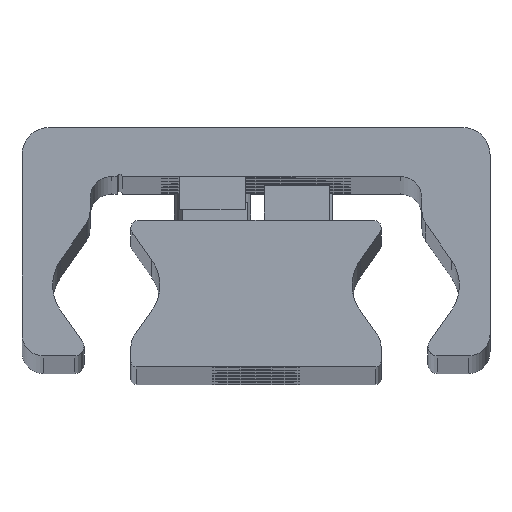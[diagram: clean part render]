
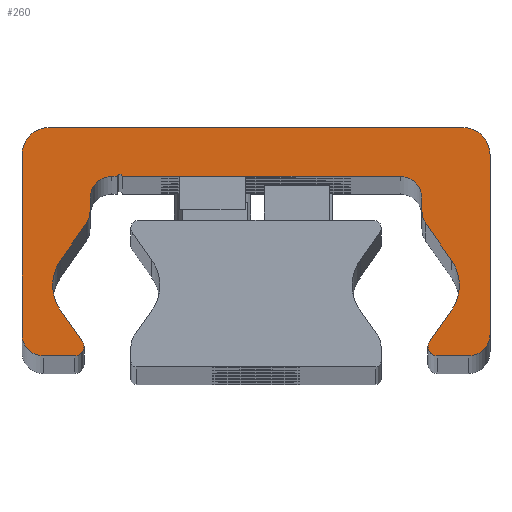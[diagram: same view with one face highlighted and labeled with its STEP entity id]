
A CAD part, top view. The second image highlights one B-rep face of the part: STEP entity #260.
In plain terms, the highlighted planar face has unit normal (0, 0, 1).
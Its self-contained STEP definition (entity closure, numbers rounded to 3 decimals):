
#260=ADVANCED_FACE('',(#706),#707,.T.);
#706=FACE_OUTER_BOUND('',#1153,.T.);
#707=PLANE('',#1154);
#1153=EDGE_LOOP('',(#2666,#2667,#2668,#2669,#2670,#2671,#2672,#2673,#2674,#2675,#2676,#2677,#2678,#2679,#2680,#2681,#2682,#2683,#2684,#2685,#2686,#2687,#2688,#2689,#2690,#2691,#2692,#2693,#2694,#2695));
#1154=AXIS2_PLACEMENT_3D('',#2696,#2697,#2698);
#2666=ORIENTED_EDGE('',*,*,#2999,.F.);
#2667=ORIENTED_EDGE('',*,*,#3222,.F.);
#2668=ORIENTED_EDGE('',*,*,#2985,.F.);
#2669=ORIENTED_EDGE('',*,*,#3221,.F.);
#2670=ORIENTED_EDGE('',*,*,#3217,.F.);
#2671=ORIENTED_EDGE('',*,*,#3214,.F.);
#2672=ORIENTED_EDGE('',*,*,#3211,.F.);
#2673=ORIENTED_EDGE('',*,*,#3208,.F.);
#2674=ORIENTED_EDGE('',*,*,#3205,.F.);
#2675=ORIENTED_EDGE('',*,*,#3202,.F.);
#2676=ORIENTED_EDGE('',*,*,#3199,.F.);
#2677=ORIENTED_EDGE('',*,*,#3196,.F.);
#2678=ORIENTED_EDGE('',*,*,#3193,.F.);
#2679=ORIENTED_EDGE('',*,*,#3190,.F.);
#2680=ORIENTED_EDGE('',*,*,#2991,.F.);
#2681=ORIENTED_EDGE('',*,*,#3188,.F.);
#2682=ORIENTED_EDGE('',*,*,#2993,.F.);
#2683=ORIENTED_EDGE('',*,*,#3187,.F.);
#2684=ORIENTED_EDGE('',*,*,#3183,.F.);
#2685=ORIENTED_EDGE('',*,*,#3180,.F.);
#2686=ORIENTED_EDGE('',*,*,#3177,.F.);
#2687=ORIENTED_EDGE('',*,*,#3174,.F.);
#2688=ORIENTED_EDGE('',*,*,#3171,.F.);
#2689=ORIENTED_EDGE('',*,*,#3168,.F.);
#2690=ORIENTED_EDGE('',*,*,#3165,.F.);
#2691=ORIENTED_EDGE('',*,*,#3162,.F.);
#2692=ORIENTED_EDGE('',*,*,#3159,.F.);
#2693=ORIENTED_EDGE('',*,*,#3156,.F.);
#2694=ORIENTED_EDGE('',*,*,#3153,.F.);
#2695=ORIENTED_EDGE('',*,*,#3150,.F.);
#2696=CARTESIAN_POINT('',(-0.023,14.187,930.0));
#2697=DIRECTION('',(0.0,0.0,1.0));
#2698=DIRECTION('',(1.0,0.0,0.0));
#2985=EDGE_CURVE('',#3628,#3631,#3632,.T.);
#2991=EDGE_CURVE('',#3641,#3637,#3643,.T.);
#2993=EDGE_CURVE('',#3644,#3647,#3648,.T.);
#2999=EDGE_CURVE('',#3657,#3653,#3659,.T.);
#3150=EDGE_CURVE('',#3653,#3902,#3903,.T.);
#3153=EDGE_CURVE('',#3902,#3907,#3908,.T.);
#3156=EDGE_CURVE('',#3907,#3912,#3913,.T.);
#3159=EDGE_CURVE('',#3912,#3917,#3918,.T.);
#3162=EDGE_CURVE('',#3917,#3922,#3923,.T.);
#3165=EDGE_CURVE('',#3922,#3927,#3928,.T.);
#3168=EDGE_CURVE('',#3927,#3932,#3933,.T.);
#3171=EDGE_CURVE('',#3932,#3937,#3938,.T.);
#3174=EDGE_CURVE('',#3937,#3942,#3943,.T.);
#3177=EDGE_CURVE('',#3942,#3947,#3948,.T.);
#3180=EDGE_CURVE('',#3947,#3952,#3953,.T.);
#3183=EDGE_CURVE('',#3952,#3957,#3958,.T.);
#3187=EDGE_CURVE('',#3957,#3644,#3963,.T.);
#3188=EDGE_CURVE('',#3647,#3641,#3964,.T.);
#3190=EDGE_CURVE('',#3637,#3966,#3967,.T.);
#3193=EDGE_CURVE('',#3966,#3971,#3972,.T.);
#3196=EDGE_CURVE('',#3971,#3976,#3977,.T.);
#3199=EDGE_CURVE('',#3976,#3981,#3982,.T.);
#3202=EDGE_CURVE('',#3981,#3986,#3987,.T.);
#3205=EDGE_CURVE('',#3986,#3991,#3992,.T.);
#3208=EDGE_CURVE('',#3991,#3996,#3997,.T.);
#3211=EDGE_CURVE('',#3996,#4001,#4002,.T.);
#3214=EDGE_CURVE('',#4001,#4006,#4007,.T.);
#3217=EDGE_CURVE('',#4006,#4011,#4012,.T.);
#3221=EDGE_CURVE('',#4011,#3628,#4017,.T.);
#3222=EDGE_CURVE('',#3631,#3657,#4018,.T.);
#3628=VERTEX_POINT('',#4556);
#3631=VERTEX_POINT('',#4560);
#3632=CIRCLE('',#4561,0.85);
#3637=VERTEX_POINT('',#4567);
#3641=VERTEX_POINT('',#4572);
#3643=CIRCLE('',#4575,0.85);
#3644=VERTEX_POINT('',#4576);
#3647=VERTEX_POINT('',#4580);
#3648=CIRCLE('',#4581,4.);
#3653=VERTEX_POINT('',#4587);
#3657=VERTEX_POINT('',#4592);
#3659=CIRCLE('',#4595,4.);
#3902=VERTEX_POINT('',#4912);
#3903=CIRCLE('',#4913,4.);
#3907=VERTEX_POINT('',#4918);
#3908=LINE('',#4919,#4920);
#3912=VERTEX_POINT('',#4926);
#3913=CIRCLE('',#4927,2.);
#3917=VERTEX_POINT('',#4932);
#3918=LINE('',#4933,#4934);
#3922=VERTEX_POINT('',#4940);
#3923=CIRCLE('',#4941,2.0);
#3927=VERTEX_POINT('',#4946);
#3928=LINE('',#4947,#4948);
#3932=VERTEX_POINT('',#4954);
#3933=CIRCLE('',#4955,0.25);
#3937=VERTEX_POINT('',#4960);
#3938=LINE('',#4961,#4962);
#3942=VERTEX_POINT('',#4968);
#3943=CIRCLE('',#4969,2.0);
#3947=VERTEX_POINT('',#4974);
#3948=LINE('',#4975,#4976);
#3952=VERTEX_POINT('',#4982);
#3953=CIRCLE('',#4983,2.0);
#3957=VERTEX_POINT('',#4988);
#3958=LINE('',#4989,#4990);
#3963=CIRCLE('',#4997,4.);
#3964=LINE('',#4998,#4999);
#3966=VERTEX_POINT('',#5002);
#3967=CIRCLE('',#5003,0.85);
#3971=VERTEX_POINT('',#5008);
#3972=LINE('',#5009,#5010);
#3976=VERTEX_POINT('',#5016);
#3977=CIRCLE('',#5017,2.);
#3981=VERTEX_POINT('',#5022);
#3982=LINE('',#5023,#5024);
#3986=VERTEX_POINT('',#5030);
#3987=CIRCLE('',#5031,2.5);
#3991=VERTEX_POINT('',#5036);
#3992=LINE('',#5037,#5038);
#3996=VERTEX_POINT('',#5044);
#3997=CIRCLE('',#5045,2.5);
#4001=VERTEX_POINT('',#5050);
#4002=LINE('',#5051,#5052);
#4006=VERTEX_POINT('',#5058);
#4007=CIRCLE('',#5059,2.);
#4011=VERTEX_POINT('',#5064);
#4012=LINE('',#5065,#5066);
#4017=CIRCLE('',#5073,0.85);
#4018=LINE('',#5074,#5075);
#4556=CARTESIAN_POINT('',(15.8,1.859,930.0));
#4560=CARTESIAN_POINT('',(15.922,2.298,930.0));
#4561=AXIS2_PLACEMENT_3D('',#5571,#5572,#5573);
#4567=CARTESIAN_POINT('',(-15.8,1.859,930.0));
#4572=CARTESIAN_POINT('',(-15.922,2.298,930.0));
#4575=AXIS2_PLACEMENT_3D('',#5583,#5584,#5585);
#4576=CARTESIAN_POINT('',(-18.688,7.509,930.0));
#4580=CARTESIAN_POINT('',(-17.964,5.214,930.0));
#4581=AXIS2_PLACEMENT_3D('',#5587,#5588,#5589);
#4587=CARTESIAN_POINT('',(18.688,7.509,930.0));
#4592=CARTESIAN_POINT('',(17.964,5.214,930.0));
#4595=AXIS2_PLACEMENT_3D('',#5599,#5600,#5601);
#4912=CARTESIAN_POINT('',(17.964,9.803,930.0));
#4913=AXIS2_PLACEMENT_3D('',#5904,#5905,#5906);
#4918=CARTESIAN_POINT('',(15.612,13.163,930.0));
#4919=CARTESIAN_POINT('',(15.612,13.163,930.0));
#4920=VECTOR('',#5911,1.0);
#4926=CARTESIAN_POINT('',(15.25,14.31,930.0));
#4927=AXIS2_PLACEMENT_3D('',#5914,#5915,#5916);
#4932=CARTESIAN_POINT('',(15.25,15.509,930.0));
#4933=CARTESIAN_POINT('',(15.25,15.509,930.0));
#4934=VECTOR('',#5921,1.0);
#4940=CARTESIAN_POINT('',(13.25,17.509,930.0));
#4941=AXIS2_PLACEMENT_3D('',#5924,#5925,#5926);
#4946=CARTESIAN_POINT('',(-12.25,17.509,930.0));
#4947=CARTESIAN_POINT('',(-12.25,17.509,930.0));
#4948=VECTOR('',#5931,1.0);
#4954=CARTESIAN_POINT('',(-12.75,17.509,930.0));
#4955=AXIS2_PLACEMENT_3D('',#5934,#5935,#5936);
#4960=CARTESIAN_POINT('',(-13.25,17.509,930.0));
#4961=CARTESIAN_POINT('',(-13.25,17.509,930.0));
#4962=VECTOR('',#5941,1.0);
#4968=CARTESIAN_POINT('',(-15.25,15.509,930.0));
#4969=AXIS2_PLACEMENT_3D('',#5944,#5945,#5946);
#4974=CARTESIAN_POINT('',(-15.25,14.31,930.0));
#4975=CARTESIAN_POINT('',(-15.25,14.31,930.0));
#4976=VECTOR('',#5951,1.0);
#4982=CARTESIAN_POINT('',(-15.612,13.163,930.0));
#4983=AXIS2_PLACEMENT_3D('',#5954,#5955,#5956);
#4988=CARTESIAN_POINT('',(-17.964,9.803,930.0));
#4989=CARTESIAN_POINT('',(-17.964,9.803,930.0));
#4990=VECTOR('',#5961,1.0);
#4997=AXIS2_PLACEMENT_3D('',#5967,#5968,#5969);
#4998=CARTESIAN_POINT('',(-15.922,2.298,930.0));
#4999=VECTOR('',#5970,1.0);
#5002=CARTESIAN_POINT('',(-16.65,1.009,930.0));
#5003=AXIS2_PLACEMENT_3D('',#5972,#5973,#5974);
#5008=CARTESIAN_POINT('',(-19.5,1.009,930.0));
#5009=CARTESIAN_POINT('',(-19.5,1.009,930.0));
#5010=VECTOR('',#5979,1.0);
#5016=CARTESIAN_POINT('',(-21.5,3.009,930.0));
#5017=AXIS2_PLACEMENT_3D('',#5982,#5983,#5984);
#5022=CARTESIAN_POINT('',(-21.5,19.509,930.0));
#5023=CARTESIAN_POINT('',(-21.5,19.509,930.0));
#5024=VECTOR('',#5989,1.0);
#5030=CARTESIAN_POINT('',(-19.0,22.009,930.0));
#5031=AXIS2_PLACEMENT_3D('',#5992,#5993,#5994);
#5036=CARTESIAN_POINT('',(19.0,22.009,930.0));
#5037=CARTESIAN_POINT('',(19.0,22.009,930.0));
#5038=VECTOR('',#5999,1.0);
#5044=CARTESIAN_POINT('',(21.5,19.509,930.0));
#5045=AXIS2_PLACEMENT_3D('',#6002,#6003,#6004);
#5050=CARTESIAN_POINT('',(21.5,3.009,930.0));
#5051=CARTESIAN_POINT('',(21.5,3.009,930.0));
#5052=VECTOR('',#6009,1.0);
#5058=CARTESIAN_POINT('',(19.5,1.009,930.0));
#5059=AXIS2_PLACEMENT_3D('',#6012,#6013,#6014);
#5064=CARTESIAN_POINT('',(16.65,1.009,930.0));
#5065=CARTESIAN_POINT('',(16.65,1.009,930.0));
#5066=VECTOR('',#6019,1.0);
#5073=AXIS2_PLACEMENT_3D('',#6025,#6026,#6027);
#5074=CARTESIAN_POINT('',(17.964,5.214,930.0));
#5075=VECTOR('',#6028,1.0);
#5571=CARTESIAN_POINT('',(16.65,1.859,930.0));
#5572=DIRECTION('',(0.0,0.0,-1.0));
#5573=DIRECTION('',(1.0,0.0,0.0));
#5583=CARTESIAN_POINT('',(-16.65,1.859,930.0));
#5584=DIRECTION('',(0.0,0.0,-1.0));
#5585=DIRECTION('',(1.0,0.0,0.0));
#5587=CARTESIAN_POINT('',(-14.688,7.509,930.0));
#5588=DIRECTION('',(0.0,0.0,1.0));
#5589=DIRECTION('',(1.0,0.0,0.0));
#5599=CARTESIAN_POINT('',(14.688,7.509,930.0));
#5600=DIRECTION('',(0.0,0.0,1.0));
#5601=DIRECTION('',(1.0,0.0,0.0));
#5904=CARTESIAN_POINT('',(14.688,7.509,930.0));
#5905=DIRECTION('',(0.0,0.0,1.0));
#5906=DIRECTION('',(1.0,0.0,0.0));
#5911=DIRECTION('',(-0.574,0.819,0.0));
#5914=CARTESIAN_POINT('',(17.25,14.31,930.0));
#5915=DIRECTION('',(0.0,0.0,-1.0));
#5916=DIRECTION('',(1.0,0.0,0.0));
#5921=DIRECTION('',(0.0,1.0,0.0));
#5924=CARTESIAN_POINT('',(13.25,15.509,930.0));
#5925=DIRECTION('',(0.0,0.0,1.0));
#5926=DIRECTION('',(1.0,0.0,0.0));
#5931=DIRECTION('',(-1.0,-0.0,-0.0));
#5934=CARTESIAN_POINT('',(-12.5,17.509,930.0));
#5935=DIRECTION('',(0.0,0.0,1.0));
#5936=DIRECTION('',(1.0,0.0,0.0));
#5941=DIRECTION('',(-1.0,-0.0,-0.0));
#5944=CARTESIAN_POINT('',(-13.25,15.509,930.0));
#5945=DIRECTION('',(0.0,0.0,1.0));
#5946=DIRECTION('',(1.0,0.0,0.0));
#5951=DIRECTION('',(-0.0,-1.0,-0.0));
#5954=CARTESIAN_POINT('',(-17.25,14.31,930.0));
#5955=DIRECTION('',(0.0,0.0,-1.0));
#5956=DIRECTION('',(1.0,0.0,0.0));
#5961=DIRECTION('',(-0.574,-0.819,-0.0));
#5967=CARTESIAN_POINT('',(-14.688,7.509,930.0));
#5968=DIRECTION('',(0.0,0.0,1.0));
#5969=DIRECTION('',(1.0,0.0,0.0));
#5970=DIRECTION('',(0.574,-0.819,0.0));
#5972=CARTESIAN_POINT('',(-16.65,1.859,930.0));
#5973=DIRECTION('',(0.0,0.0,-1.0));
#5974=DIRECTION('',(1.0,0.0,0.0));
#5979=DIRECTION('',(-1.0,-0.0,-0.0));
#5982=CARTESIAN_POINT('',(-19.5,3.009,930.0));
#5983=DIRECTION('',(0.0,0.0,-1.0));
#5984=DIRECTION('',(1.0,0.0,0.0));
#5989=DIRECTION('',(0.0,1.0,0.0));
#5992=CARTESIAN_POINT('',(-19.0,19.509,930.0));
#5993=DIRECTION('',(0.0,0.0,-1.0));
#5994=DIRECTION('',(1.0,0.0,0.0));
#5999=DIRECTION('',(1.0,0.0,0.0));
#6002=CARTESIAN_POINT('',(19.0,19.509,930.0));
#6003=DIRECTION('',(0.0,0.0,-1.0));
#6004=DIRECTION('',(1.0,0.0,0.0));
#6009=DIRECTION('',(-0.0,-1.0,-0.0));
#6012=CARTESIAN_POINT('',(19.5,3.009,930.0));
#6013=DIRECTION('',(0.0,0.0,-1.0));
#6014=DIRECTION('',(1.0,0.0,0.0));
#6019=DIRECTION('',(-1.0,-0.0,-0.0));
#6025=CARTESIAN_POINT('',(16.65,1.859,930.0));
#6026=DIRECTION('',(0.0,0.0,-1.0));
#6027=DIRECTION('',(1.0,0.0,0.0));
#6028=DIRECTION('',(0.574,0.819,0.0));
